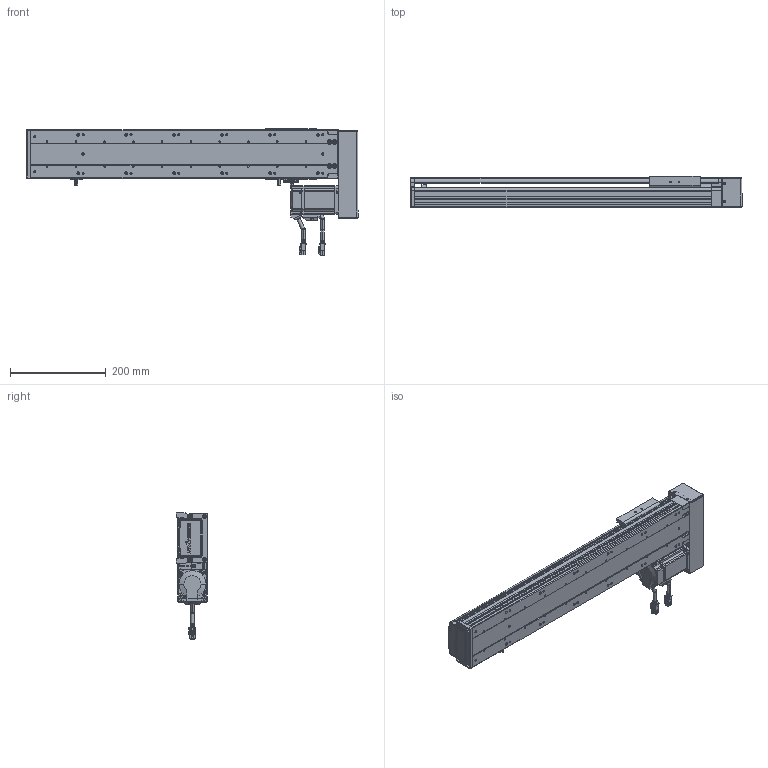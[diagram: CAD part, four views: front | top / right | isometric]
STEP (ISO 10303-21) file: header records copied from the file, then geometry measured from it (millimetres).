
FILE_DESCRIPTION (( 'STEP AP203' ), '1' );
FILE_NAME ('RY100S-L1620-300-RK(15双轨).SLDASM_450.step', '2021-02-20T08:48:00', ( '盈信电脑' ), ( '东莞市道滘镇水果街19号' ), 'SwSTEP 2.0', 'SolidWorks 2012', '' );
FILE_SCHEMA (( 'CONFIG_CONTROL_DESIGN' ));
Products named in the file (25): RY100S转折电机安装板（15双轨）; 1; 肮祭湍3M遵15笚酗282; RY100S左右折电机罩（15双轨）; RY80肮祭湍覃踡啣; RY80肮祭湍芢雄輸; RY100綴裔啣; 滅袉蝶18-24; RY100S转折电机端支撑座(15双轨); 滅袉蝶18-10; RY100俋离覜茼え; RY100S-350-LK型材底座(低组15双轨)_450; 覜茼ん672; RY100S-300-LK转折型材上盖(15双轨)_450; 3; 5; 2; 4; RY100S铝滑块（15双轨单滑块）底组装导轨; RY100S-L1620-300-RK(15邧寢).SLDASM_450; 蚾饜极1^RY100S-L1620-300-RK(15邧寢); 3M30喘15遵; 侂狟200W萇儂; 7; 6
Assembly tree (27 placements, depth 4):
  RY100S-L1620-300-RK(15邧寢).SLDASM_450
    RY100S-350-LK型材底座(低组15双轨)_450
    RY100S-300-LK转折型材上盖(15双轨)_450
    覜茼ん672  x3
    滅袉蝶18-10
    RY100俋离覜茼え
    RY100S转折电机端支撑座(15双轨)
    滅袉蝶18-24
    RY100綴裔啣
    蚾饜极1^RY100S-L1620-300-RK(15邧寢)
      RY80肮祭湍覃踡啣
      RY80肮祭湍芢雄輸  x2
      RY100S左右折电机罩（15双轨）
      RY100S转折电机安装板（15双轨）
      肮祭湍3M遵15笚酗282
      侂狟200W萇儂
        1
        2
        3
        4
        5
        6
        7
      3M30喘15遵
    RY100S铝滑块（15双轨单滑块）底组装导轨
Bounding box: 692.5 x 65 x 263.3 mm (x, y, z)
Volume: 1842445.4 mm3; surface area: 704760.4 mm2
Topology: 25 solids, 25 shells, 3190 faces, 8577 edges, 5526 vertices
Faces by surface type: plane 1692, cylinder 1215, cone 169, bspline 114
Entity records: 103489 total; most frequent: CARTESIAN_POINT 25678, ORIENTED_EDGE 15858, DIRECTION 15390, EDGE_CURVE 7929, AXIS2_PLACEMENT_3D 5239, VERTEX_POINT 5162, LINE 4912, VECTOR 4912
